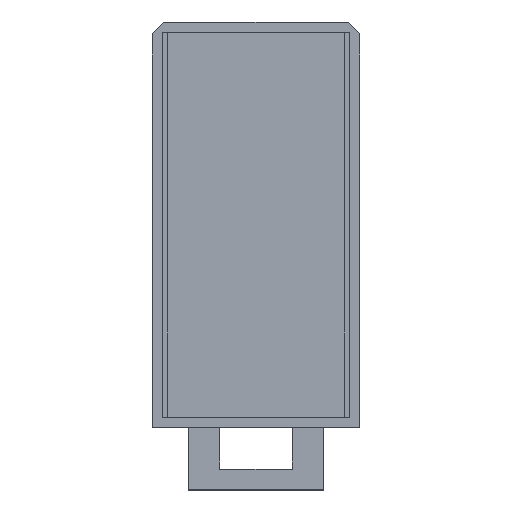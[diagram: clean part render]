
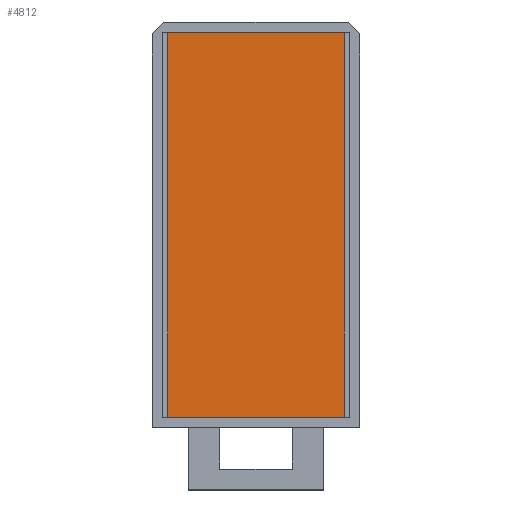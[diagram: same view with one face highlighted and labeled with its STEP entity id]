
A CAD part, top view. The second image highlights one B-rep face of the part: STEP entity #4812.
In plain terms, the highlighted planar face has unit normal (0, 0, 1).
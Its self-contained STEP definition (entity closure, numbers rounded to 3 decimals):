
#738 = PLANE('',#739);
#739 = AXIS2_PLACEMENT_3D('',#740,#741,#742);
#740 = CARTESIAN_POINT('',(21.,-42.2,12.36));
#741 = DIRECTION('',(0.,1.,0.));
#742 = DIRECTION('',(0.,0.,1.));
#791 = PLANE('',#792);
#792 = AXIS2_PLACEMENT_3D('',#793,#794,#795);
#793 = CARTESIAN_POINT('',(21.,31.8,12.36));
#794 = DIRECTION('',(0.,1.,0.));
#795 = DIRECTION('',(0.,0.,1.));
#2797 = VERTEX_POINT('',#2798);
#2798 = CARTESIAN_POINT('',(57.,-42.2,12.36));
#2814 = PLANE('',#2815);
#2815 = AXIS2_PLACEMENT_3D('',#2816,#2817,#2818);
#2816 = CARTESIAN_POINT('',(57.,-42.2,12.36));
#2817 = DIRECTION('',(1.,0.,0.));
#2818 = DIRECTION('',(0.,0.,1.));
#2826 = EDGE_CURVE('',#2827,#2797,#2829,.T.);
#2827 = VERTEX_POINT('',#2828);
#2828 = CARTESIAN_POINT('',(21.,-42.2,12.36));
#2829 = SURFACE_CURVE('',#2830,(#2834,#2841),.PCURVE_S1.);
#2830 = LINE('',#2831,#2832);
#2831 = CARTESIAN_POINT('',(21.,-42.2,12.36));
#2832 = VECTOR('',#2833,1.);
#2833 = DIRECTION('',(1.,0.,0.));
#2834 = PCURVE('',#738,#2835);
#2835 = DEFINITIONAL_REPRESENTATION('',(#2836),#2840);
#2836 = LINE('',#2837,#2838);
#2837 = CARTESIAN_POINT('',(0.,0.));
#2838 = VECTOR('',#2839,1.);
#2839 = DIRECTION('',(0.,1.));
#2840 = ( GEOMETRIC_REPRESENTATION_CONTEXT(2) 
PARAMETRIC_REPRESENTATION_CONTEXT() REPRESENTATION_CONTEXT('2D SPACE',''
  ) );
#2841 = PCURVE('',#2842,#2847);
#2842 = PLANE('',#2843);
#2843 = AXIS2_PLACEMENT_3D('',#2844,#2845,#2846);
#2844 = CARTESIAN_POINT('',(21.,-42.2,12.36));
#2845 = DIRECTION('',(0.,0.,1.));
#2846 = DIRECTION('',(1.,0.,0.));
#2847 = DEFINITIONAL_REPRESENTATION('',(#2848),#2852);
#2848 = LINE('',#2849,#2850);
#2849 = CARTESIAN_POINT('',(0.,0.));
#2850 = VECTOR('',#2851,1.);
#2851 = DIRECTION('',(1.,0.));
#2852 = ( GEOMETRIC_REPRESENTATION_CONTEXT(2) 
PARAMETRIC_REPRESENTATION_CONTEXT() REPRESENTATION_CONTEXT('2D SPACE',''
  ) );
#2870 = PLANE('',#2871);
#2871 = AXIS2_PLACEMENT_3D('',#2872,#2873,#2874);
#2872 = CARTESIAN_POINT('',(21.,-45.2,17.36));
#2873 = DIRECTION('',(1.,0.,0.));
#2874 = DIRECTION('',(0.,0.,1.));
#3364 = VERTEX_POINT('',#3365);
#3365 = CARTESIAN_POINT('',(57.,31.8,12.36));
#3388 = EDGE_CURVE('',#3389,#3364,#3391,.T.);
#3389 = VERTEX_POINT('',#3390);
#3390 = CARTESIAN_POINT('',(21.,31.8,12.36));
#3391 = SURFACE_CURVE('',#3392,(#3396,#3403),.PCURVE_S1.);
#3392 = LINE('',#3393,#3394);
#3393 = CARTESIAN_POINT('',(21.,31.8,12.36));
#3394 = VECTOR('',#3395,1.);
#3395 = DIRECTION('',(1.,0.,0.));
#3396 = PCURVE('',#791,#3397);
#3397 = DEFINITIONAL_REPRESENTATION('',(#3398),#3402);
#3398 = LINE('',#3399,#3400);
#3399 = CARTESIAN_POINT('',(0.,0.));
#3400 = VECTOR('',#3401,1.);
#3401 = DIRECTION('',(0.,1.));
#3402 = ( GEOMETRIC_REPRESENTATION_CONTEXT(2) 
PARAMETRIC_REPRESENTATION_CONTEXT() REPRESENTATION_CONTEXT('2D SPACE',''
  ) );
#3403 = PCURVE('',#2842,#3404);
#3404 = DEFINITIONAL_REPRESENTATION('',(#3405),#3409);
#3405 = LINE('',#3406,#3407);
#3406 = CARTESIAN_POINT('',(0.,74.));
#3407 = VECTOR('',#3408,1.);
#3408 = DIRECTION('',(1.,0.));
#3409 = ( GEOMETRIC_REPRESENTATION_CONTEXT(2) 
PARAMETRIC_REPRESENTATION_CONTEXT() REPRESENTATION_CONTEXT('2D SPACE',''
  ) );
#4709 = EDGE_CURVE('',#2797,#3364,#4710,.T.);
#4710 = SURFACE_CURVE('',#4711,(#4715,#4722),.PCURVE_S1.);
#4711 = LINE('',#4712,#4713);
#4712 = CARTESIAN_POINT('',(57.,-42.2,12.36));
#4713 = VECTOR('',#4714,1.);
#4714 = DIRECTION('',(0.,1.,0.));
#4715 = PCURVE('',#2814,#4716);
#4716 = DEFINITIONAL_REPRESENTATION('',(#4717),#4721);
#4717 = LINE('',#4718,#4719);
#4718 = CARTESIAN_POINT('',(0.,0.));
#4719 = VECTOR('',#4720,1.);
#4720 = DIRECTION('',(0.,-1.));
#4721 = ( GEOMETRIC_REPRESENTATION_CONTEXT(2) 
PARAMETRIC_REPRESENTATION_CONTEXT() REPRESENTATION_CONTEXT('2D SPACE',''
  ) );
#4722 = PCURVE('',#2842,#4723);
#4723 = DEFINITIONAL_REPRESENTATION('',(#4724),#4728);
#4724 = LINE('',#4725,#4726);
#4725 = CARTESIAN_POINT('',(36.,0.));
#4726 = VECTOR('',#4727,1.);
#4727 = DIRECTION('',(0.,1.));
#4728 = ( GEOMETRIC_REPRESENTATION_CONTEXT(2) 
PARAMETRIC_REPRESENTATION_CONTEXT() REPRESENTATION_CONTEXT('2D SPACE',''
  ) );
#4791 = EDGE_CURVE('',#2827,#3389,#4792,.T.);
#4792 = SURFACE_CURVE('',#4793,(#4797,#4804),.PCURVE_S1.);
#4793 = LINE('',#4794,#4795);
#4794 = CARTESIAN_POINT('',(21.,-42.2,12.36));
#4795 = VECTOR('',#4796,1.);
#4796 = DIRECTION('',(0.,1.,0.));
#4797 = PCURVE('',#2870,#4798);
#4798 = DEFINITIONAL_REPRESENTATION('',(#4799),#4803);
#4799 = LINE('',#4800,#4801);
#4800 = CARTESIAN_POINT('',(-5.,-3.));
#4801 = VECTOR('',#4802,1.);
#4802 = DIRECTION('',(0.,-1.));
#4803 = ( GEOMETRIC_REPRESENTATION_CONTEXT(2) 
PARAMETRIC_REPRESENTATION_CONTEXT() REPRESENTATION_CONTEXT('2D SPACE',''
  ) );
#4804 = PCURVE('',#2842,#4805);
#4805 = DEFINITIONAL_REPRESENTATION('',(#4806),#4810);
#4806 = LINE('',#4807,#4808);
#4807 = CARTESIAN_POINT('',(0.,0.));
#4808 = VECTOR('',#4809,1.);
#4809 = DIRECTION('',(0.,1.));
#4810 = ( GEOMETRIC_REPRESENTATION_CONTEXT(2) 
PARAMETRIC_REPRESENTATION_CONTEXT() REPRESENTATION_CONTEXT('2D SPACE',''
  ) );
#4812 = ADVANCED_FACE('',(#4813),#2842,.T.);
#4813 = FACE_BOUND('',#4814,.T.);
#4814 = EDGE_LOOP('',(#4815,#4816,#4817,#4818));
#4815 = ORIENTED_EDGE('',*,*,#4791,.F.);
#4816 = ORIENTED_EDGE('',*,*,#2826,.T.);
#4817 = ORIENTED_EDGE('',*,*,#4709,.T.);
#4818 = ORIENTED_EDGE('',*,*,#3388,.F.);
